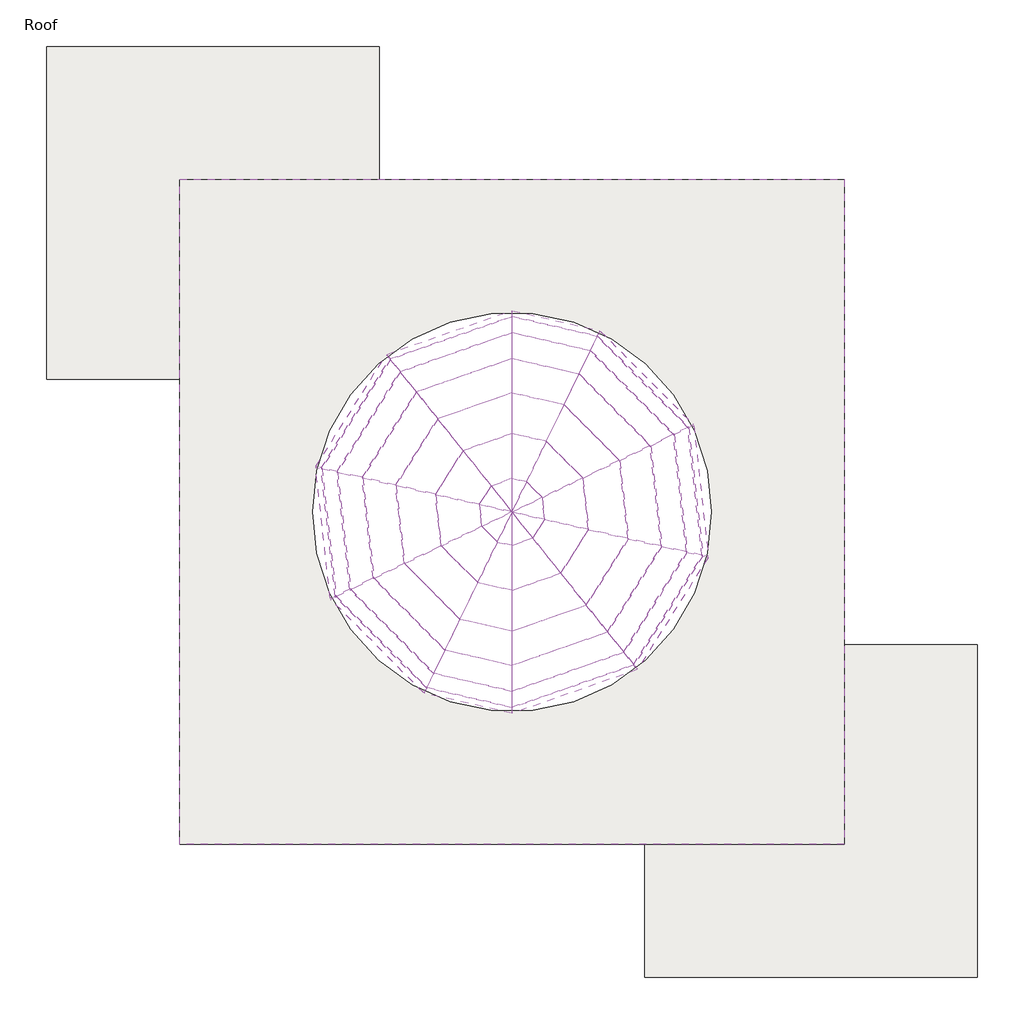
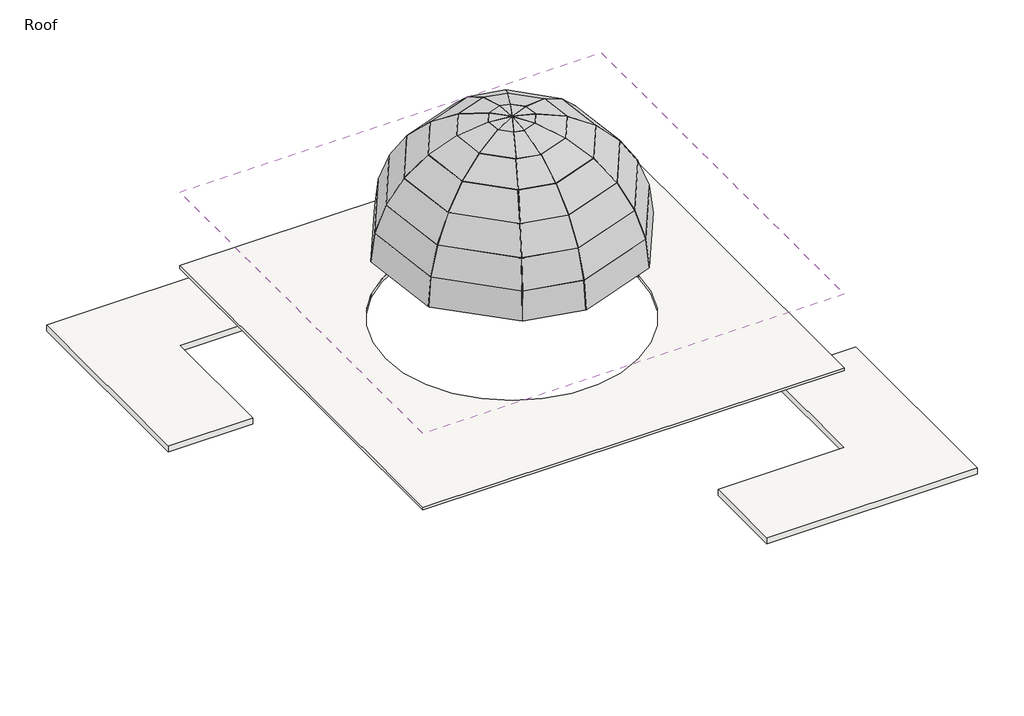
# One storey: 70 plates, 2 roofs, 1 slab.
"""IFC4 building model written with IfcOpenShell, lengths in millimetres."""

from ifc_helpers import new_model, si_unit, point, frame, frame_2d, origin, place, context, project, spatial, polyline, circle_curve, trimmed, segment, composite_curve, outline, extrude, transform, mapped, element, save
from components import system_panel_glazed_898c23d1, system_panel_glazed_25115a52, system_panel_glazed_62ab61e8, system_panel_glazed_7acfdb1a, system_panel_glazed_9f142460, system_panel_glazed_700fa891, system_panel_glazed_364f3b73, system_panel_glazed_2223643d, system_panel_glazed_0767997b, system_panel_glazed_000dc080, system_panel_glazed_7876e2aa, system_panel_glazed_8a0f5b20, system_panel_glazed_07cf543c, system_panel_glazed_3a158d1d, system_panel_glazed_cda2b1d7, system_panel_glazed_93534adc, system_panel_glazed_8185ee31, system_panel_glazed_1dea36c9, system_panel_glazed_61edb7d8, system_panel_glazed_57e85f98, system_panel_glazed_60b97da7, system_panel_glazed_c1cc0219

model = new_model("IFC4")

# Units and contexts
model_context = context("Model", 3, world=origin())
ifc_project = project(units=[si_unit("LENGTHUNIT", "METRE", prefix="MILLI")], contexts=[model_context])

# Site, building, storey
site = spatial("IfcSite", under=ifc_project)
building = spatial("IfcBuilding", under=site)
storey = spatial("IfcBuildingStorey", under=building, Name="Roof", Elevation=15240.0)

# Plates
placement = place(None, origin())
system_panel_glazed_shape = system_panel_glazed_898c23d1(model_context)
element("IfcPlate", 1, ObjectType="System Panel : Glazed", at=placement, inside=storey, context=model_context, shape_type="MappedRepresentation", body=[
    mapped(system_panel_glazed_shape, transform((-783.4578799, -1990.338386, 18288.0), x_axis=(0.9439868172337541, 0.3299831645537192, 0.0), y_axis=(-0.3279728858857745, 0.9382359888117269, -0.1102134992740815), z_axis=(-0.03636859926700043, 0.10404009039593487, 0.9939079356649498))),
])
element("IfcPlate", 2, ObjectType="System Panel : Glazed", at=placement, inside=storey, context=model_context, shape_type="MappedRepresentation", body=[
    mapped(system_panel_glazed_shape, transform((-3631.8116602, 6157.981614, 18288.0), x_axis=(-0.9439868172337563, -0.32998316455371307, 0.0), y_axis=(0.3279728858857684, -0.9382359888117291, -0.11021349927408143), z_axis=(0.03636859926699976, -0.10404009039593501, 0.9939079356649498))),
])
element("IfcPlate", 3, ObjectType="System Panel : Glazed", at=placement, inside=storey, context=model_context, shape_type="MappedRepresentation", body=[
    mapped(system_panel_glazed_shape, transform((1444.5877438, -215.8153638, 18288.0), x_axis=(0.5328281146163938, 0.8462234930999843, 0.0), y_axis=(-0.8410682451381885, 0.5295820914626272, -0.11021349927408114), z_axis=(-0.09326525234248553, 0.05872485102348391, 0.9939079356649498))),
])
element("IfcPlate", 4, ObjectType="System Panel : Glazed", at=placement, inside=storey, context=model_context, shape_type="MappedRepresentation", body=[
    mapped(system_panel_glazed_shape, transform((2081.8875615, 2560.3273199, 18288.0), x_axis=(-0.11040683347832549, 0.9938864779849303, 0.0), y_axis=(-0.9878316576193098, -0.10973422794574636, -0.11021349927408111), z_axis=(-0.10953970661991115, -0.012168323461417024, 0.99390793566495))),
])
element("IfcPlate", 5, ObjectType="System Panel : Glazed", at=placement, inside=storey, context=model_context, shape_type="MappedRepresentation", body=[
    mapped(system_panel_glazed_shape, transform((850.862097, 5128.9252961, 18288.0), x_axis=(-0.7055534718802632, 0.7086566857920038, 0.0), y_axis=(-0.7043395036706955, -0.7012551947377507, -0.11021349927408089), z_axis=(-0.07810353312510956, -0.07776151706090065, 0.9939079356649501))),
])
element("IfcPlate", 6, ObjectType="System Panel : Glazed", at=placement, inside=storey, context=model_context, shape_type="MappedRepresentation", body=[
    mapped(system_panel_glazed_shape, transform((-5859.8572838, 4383.4585918, 18288.0), x_axis=(-0.5328281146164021, -0.846223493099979, 0.0), y_axis=(0.8410682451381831, -0.5295820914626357, -0.11021349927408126), z_axis=(0.09326525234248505, -0.05872485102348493, 0.99390793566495))),
])
element("IfcPlate", 7, ObjectType="System Panel : Glazed", at=placement, inside=storey, context=model_context, shape_type="MappedRepresentation", body=[
    mapped(system_panel_glazed_shape, transform((-6497.1571015, 1607.3159081, 18288.0), x_axis=(0.11040683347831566, -0.9938864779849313, 0.0), y_axis=(0.9878316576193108, 0.1097342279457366, -0.11021349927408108), z_axis=(0.10953970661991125, 0.012168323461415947, 0.99390793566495))),
])
element("IfcPlate", 8, ObjectType="System Panel : Glazed", at=placement, inside=storey, context=model_context, shape_type="MappedRepresentation", body=[
    mapped(system_panel_glazed_shape, transform((-5266.131637, -961.2820681, 18288.0), x_axis=(0.7055534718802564, -0.7086566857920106, 0.0), y_axis=(0.7043395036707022, 0.7012551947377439, -0.11021349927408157), z_axis=(0.0781035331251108, 0.07776151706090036, 0.9939079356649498))),
])
system_panel_glazed_2_shape = system_panel_glazed_25115a52(model_context)
element("IfcPlate", 9, ObjectType="System Panel : Glazed", at=placement, inside=storey, context=model_context, shape_type="MappedRepresentation", body=[
    mapped(system_panel_glazed_2_shape, transform((-1210.6146108, 6426.9426125, 18288.0), x_axis=(-0.9746481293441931, 0.22374320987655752, 0.0), y_axis=(-0.22229104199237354, -0.9683223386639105, -0.11374770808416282), z_axis=(-0.025450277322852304, -0.11086399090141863, 0.9935096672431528))),
])
element("IfcPlate", 10, ObjectType="System Panel : Glazed", at=placement, inside=storey, context=model_context, shape_type="MappedRepresentation", body=[
    mapped(system_panel_glazed_2_shape, transform((-3204.6549292, -2259.2993844, 18288.0), x_axis=(0.974648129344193, -0.22374320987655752, 0.0), y_axis=(0.2222910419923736, 0.9683223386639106, -0.11374770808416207), z_axis=(0.025450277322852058, 0.1108639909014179, 0.9935096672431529))),
])
system_panel_glazed_3_shape = system_panel_glazed_62ab61e8(model_context)
element("IfcPlate", 11, ObjectType="System Panel : Glazed", at=placement, inside=storey, context=model_context, shape_type="MappedRepresentation", body=[
    mapped(system_panel_glazed_3_shape, transform((-822.2271397, -1879.4306971, 19347.514959), x_axis=(0.9439868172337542, 0.329983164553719, 0.0), y_axis=(-0.31189854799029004, 0.8922519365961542, -0.3265054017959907), z_axis=(-0.10774128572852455, 0.3082167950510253, 0.9451953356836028))),
])
element("IfcPlate", 12, ObjectType="System Panel : Glazed", at=placement, inside=storey, context=model_context, shape_type="MappedRepresentation", body=[
    mapped(system_panel_glazed_3_shape, transform((1345.1661309, -153.2141349, 19347.514959), x_axis=(0.5328281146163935, 0.8462234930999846, 0.0), y_axis=(-0.7998464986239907, 0.5036266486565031, -0.32650540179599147), z_axis=(-0.27629654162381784, 0.17397125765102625, 0.9451953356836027))),
])
element("IfcPlate", 13, ObjectType="System Panel : Glazed", at=placement, inside=storey, context=model_context, shape_type="MappedRepresentation", body=[
    mapped(system_panel_glazed_3_shape, transform((1965.1172313, 2547.3557757, 19347.514959), x_axis=(-0.11040683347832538, 0.9938864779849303, 0.0), y_axis=(-0.9394168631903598, -0.10435602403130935, -0.3265054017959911), z_axis=(-0.3245093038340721, -0.03604842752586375, 0.9451953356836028))),
])
element("IfcPlate", 14, ObjectType="System Panel : Glazed", at=placement, inside=storey, context=model_context, shape_type="MappedRepresentation", body=[
    mapped(system_panel_glazed_3_shape, transform((767.6030156, 5046.030807, 19347.514959), x_axis=(-0.7055534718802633, 0.7086566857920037, 0.0), y_axis=(-0.6698189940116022, -0.6668858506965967, -0.32650540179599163), z_axis=(-0.231380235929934, -0.2303670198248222, 0.9451953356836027))),
])
element("IfcPlate", 15, ObjectType="System Panel : Glazed", at=placement, inside=storey, context=model_context, shape_type="MappedRepresentation", body=[
    mapped(system_panel_glazed_3_shape, transform((-3593.0424004, 6047.0739251, 19347.514959), x_axis=(-0.9439868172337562, -0.3299831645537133, 0.0), y_axis=(0.31189854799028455, -0.8922519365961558, -0.3265054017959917), z_axis=(0.10774128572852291, -0.308216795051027, 0.9451953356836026))),
])
element("IfcPlate", 16, ObjectType="System Panel : Glazed", at=placement, inside=storey, context=model_context, shape_type="MappedRepresentation", body=[
    mapped(system_panel_glazed_3_shape, transform((-5760.435671, 4320.857363, 19347.514959), x_axis=(-0.5328281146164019, -0.8462234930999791, 0.0), y_axis=(0.7998464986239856, -0.5036266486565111, -0.3265054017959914), z_axis=(0.27629654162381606, -0.17397125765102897, 0.9451953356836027))),
])
element("IfcPlate", 17, ObjectType="System Panel : Glazed", at=placement, inside=storey, context=model_context, shape_type="MappedRepresentation", body=[
    mapped(system_panel_glazed_3_shape, transform((-6380.3867714, 1620.2874524, 19347.514959), x_axis=(0.11040683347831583, -0.9938864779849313, 0.0), y_axis=(0.9394168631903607, 0.10435602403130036, -0.3265054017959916), z_axis=(0.32450930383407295, 0.036048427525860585, 0.9451953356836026))),
])
element("IfcPlate", 18, ObjectType="System Panel : Glazed", at=placement, inside=storey, context=model_context, shape_type="MappedRepresentation", body=[
    mapped(system_panel_glazed_3_shape, transform((-5182.8725556, -878.3875789, 19347.514959), x_axis=(0.7055534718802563, -0.7086566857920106, 0.0), y_axis=(0.6698189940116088, 0.6668858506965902, -0.32650540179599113), z_axis=(0.2313802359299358, 0.23036701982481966, 0.9451953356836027))),
])
system_panel_glazed_4_shape = system_panel_glazed_7acfdb1a(model_context)
element("IfcPlate", 19, ObjectType="System Panel : Glazed", at=placement, inside=storey, context=model_context, shape_type="MappedRepresentation", body=[
    mapped(system_panel_glazed_4_shape, transform((-1237.7557152, 6308.7132075, 19347.514959), x_axis=(-0.9746481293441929, 0.2237432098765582, 0.0), y_axis=(-0.21074077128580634, -0.918008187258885, -0.33593049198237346), z_axis=(-0.07516216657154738, -0.3274140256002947, 0.9418867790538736))),
])
element("IfcPlate", 20, ObjectType="System Panel : Glazed", at=placement, inside=storey, context=model_context, shape_type="MappedRepresentation", body=[
    mapped(system_panel_glazed_4_shape, transform((-3177.5138249, -2141.0699794, 19347.514959), x_axis=(0.9746481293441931, -0.2237432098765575, 0.0), y_axis=(0.2107407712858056, 0.9180081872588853, -0.3359304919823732), z_axis=(0.07516216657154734, 0.3274140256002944, 0.9418867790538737))),
])
system_panel_glazed_5_shape = system_panel_glazed_9f142460(model_context)
element("IfcPlate", 21, ObjectType="System Panel : Glazed", at=placement, inside=storey, context=model_context, shape_type="MappedRepresentation", body=[
    mapped(system_panel_glazed_5_shape, transform((-936.4241482, -1552.7459379, 20349.3452147), x_axis=(0.9439868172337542, 0.32998316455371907, 0.0), y_axis=(-0.279852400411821, 0.800577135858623, -0.5298668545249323), z_axis=(-0.17484714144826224, 0.5001873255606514, 0.8480808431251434))),
])
element("IfcPlate", 22, ObjectType="System Panel : Glazed", at=placement, inside=storey, context=model_context, shape_type="MappedRepresentation", body=[
    mapped(system_panel_glazed_5_shape, transform((1052.3142468, 31.1812625, 20349.3452147), x_axis=(0.5328281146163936, 0.8462234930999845, 0.0), y_axis=(-0.717665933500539, 0.45188131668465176, -0.5298668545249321), z_axis=(-0.44838578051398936, 0.2823279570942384, 0.8480808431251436))),
])
element("IfcPlate", 23, ObjectType="System Panel : Glazed", at=placement, inside=storey, context=model_context, shape_type="MappedRepresentation", body=[
    mapped(system_panel_glazed_5_shape, transform((1621.1637367, 2509.1473716, 20349.3452147), x_axis=(-0.11040683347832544, 0.9938864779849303, 0.0), y_axis=(-0.8428960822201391, -0.0936339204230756, -0.5298668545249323), z_axis=(-0.5266275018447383, -0.05850092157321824, 0.8480808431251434))),
])
element("IfcPlate", 24, ObjectType="System Panel : Glazed", at=placement, inside=storey, context=model_context, shape_type="MappedRepresentation", body=[
    mapped(system_panel_glazed_5_shape, transform((522.3587659, 4801.860484, 20349.3452147), x_axis=(-0.7055534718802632, 0.7086566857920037, 0.0), y_axis=(-0.6009981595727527, -0.598366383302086, -0.5298668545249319), z_axis=(-0.3754936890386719, -0.3738493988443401, 0.8480808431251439))),
])
element("IfcPlate", 25, ObjectType="System Panel : Glazed", at=placement, inside=storey, context=model_context, shape_type="MappedRepresentation", body=[
    mapped(system_panel_glazed_5_shape, transform((-3478.8453918, 5720.389166, 20349.3452147), x_axis=(-0.9439868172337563, -0.329983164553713, 0.0), y_axis=(0.27985240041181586, -0.800577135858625, -0.5298668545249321), z_axis=(0.1748471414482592, -0.5001873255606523, 0.8480808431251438))),
])
element("IfcPlate", 26, ObjectType="System Panel : Glazed", at=placement, inside=storey, context=model_context, shape_type="MappedRepresentation", body=[
    mapped(system_panel_glazed_5_shape, transform((-5467.5837868, 4136.4619656, 20349.3452147), x_axis=(-0.532828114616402, -0.8462234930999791, 0.0), y_axis=(0.7176659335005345, -0.451881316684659, -0.5298668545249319), z_axis=(0.4483857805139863, -0.28232795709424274, 0.8480808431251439))),
])
element("IfcPlate", 27, ObjectType="System Panel : Glazed", at=placement, inside=storey, context=model_context, shape_type="MappedRepresentation", body=[
    mapped(system_panel_glazed_5_shape, transform((-6036.4332767, 1658.4958565, 20349.3452147), x_axis=(0.11040683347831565, -0.9938864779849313, 0.0), y_axis=(0.8428960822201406, 0.09363392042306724, -0.5298668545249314), z_axis=(0.526627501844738, 0.05850092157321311, 0.8480808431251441))),
])
element("IfcPlate", 28, ObjectType="System Panel : Glazed", at=placement, inside=storey, context=model_context, shape_type="MappedRepresentation", body=[
    mapped(system_panel_glazed_5_shape, transform((-4937.6283059, -634.217256, 20349.3452147), x_axis=(0.7055534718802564, -0.7086566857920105, 0.0), y_axis=(0.6009981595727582, 0.5983663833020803, -0.5298668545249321), z_axis=(0.3754936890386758, 0.37384939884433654, 0.8480808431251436))),
])
system_panel_glazed_6_shape = system_panel_glazed_700fa891(model_context)
element("IfcPlate", 29, ObjectType="System Panel : Glazed", at=placement, inside=storey, context=model_context, shape_type="MappedRepresentation", body=[
    mapped(system_panel_glazed_6_shape, transform((-1317.7013458, 5960.4619269, 20349.3452147), x_axis=(-0.974648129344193, 0.2237432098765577, 0.0), y_axis=(-0.1880179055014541, -0.819025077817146, -0.5420767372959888), z_axis=(-0.12128598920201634, -0.528334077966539, 0.8403289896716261))),
])
element("IfcPlate", 30, ObjectType="System Panel : Glazed", at=placement, inside=storey, context=model_context, shape_type="MappedRepresentation", body=[
    mapped(system_panel_glazed_6_shape, transform((-3097.5681942, -1792.8186988, 20349.3452147), x_axis=(0.9746481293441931, -0.2237432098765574, 0.0), y_axis=(0.1880179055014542, 0.8190250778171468, -0.5420767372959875), z_axis=(0.12128598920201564, 0.5283340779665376, 0.8403289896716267))),
])
system_panel_glazed_7_shape = system_panel_glazed_364f3b73(model_context)
element("IfcPlate", 31, ObjectType="System Panel : Glazed", at=placement, inside=storey, context=model_context, shape_type="MappedRepresentation", body=[
    mapped(system_panel_glazed_7_shape, transform((-1119.8315129, -1028.0702787, 21238.9466754), x_axis=(0.9439868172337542, 0.32998316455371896, 0.0), y_axis=(-0.23231958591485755, 0.6645994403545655, -0.7101656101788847), z_axis=(-0.23434269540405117, 0.6703869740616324, 0.7040346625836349))),
])
element("IfcPlate", 32, ObjectType="System Panel : Glazed", at=placement, inside=storey, context=model_context, shape_type="MappedRepresentation", body=[
    mapped(system_panel_glazed_7_shape, transform((581.9762495, 327.3315235, 21238.9466754), x_axis=(0.5328281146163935, 0.8462234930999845, 0.0), y_axis=(-0.5957706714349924, 0.37512946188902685, -0.7101656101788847), z_axis=(-0.6009588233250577, 0.3783962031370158, 0.7040346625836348))),
])
element("IfcPlate", 33, ObjectType="System Panel : Glazed", at=placement, inside=storey, context=model_context, shape_type="MappedRepresentation", body=[
    mapped(system_panel_glazed_7_shape, transform((1068.7534344, 2447.7823429, 21238.9466754), x_axis=(-0.11040683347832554, 0.9938864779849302, 0.0), y_axis=(-0.6997305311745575, -0.07773023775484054, -0.7101656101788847), z_axis=(-0.7058239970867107, -0.07840713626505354, 0.7040346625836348))),
])
element("IfcPlate", 34, ObjectType="System Panel : Glazed", at=placement, inside=storey, context=model_context, shape_type="MappedRepresentation", body=[
    mapped(system_panel_glazed_7_shape, transform((128.4815348, 4409.7080448, 21238.9466754), x_axis=(-0.7055534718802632, 0.7086566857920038, 0.0), y_axis=(-0.49891887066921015, -0.4967341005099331, -0.7101656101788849), z_axis=(-0.5032636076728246, -0.5010598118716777, 0.7040346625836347))),
])
element("IfcPlate", 35, ObjectType="System Panel : Glazed", at=placement, inside=storey, context=model_context, shape_type="MappedRepresentation", body=[
    mapped(system_panel_glazed_7_shape, transform((-3295.4380272, 5195.7135068, 21238.9466754), x_axis=(-0.9439868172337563, -0.32998316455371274, 0.0), y_axis=(0.23231958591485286, -0.6645994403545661, -0.7101656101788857), z_axis=(0.23434269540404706, -0.6703869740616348, 0.7040346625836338))),
])
element("IfcPlate", 36, ObjectType="System Panel : Glazed", at=placement, inside=storey, context=model_context, shape_type="MappedRepresentation", body=[
    mapped(system_panel_glazed_7_shape, transform((-4997.2457895, 3840.3117046, 21238.9466754), x_axis=(-0.5328281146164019, -0.8462234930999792, 0.0), y_axis=(0.595770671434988, -0.37512946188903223, -0.7101656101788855), z_axis=(0.6009588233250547, -0.3783962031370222, 0.704034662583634))),
])
element("IfcPlate", 37, ObjectType="System Panel : Glazed", at=placement, inside=storey, context=model_context, shape_type="MappedRepresentation", body=[
    mapped(system_panel_glazed_7_shape, transform((-5484.0229745, 1719.8608852, 21238.9466754), x_axis=(0.1104068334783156, -0.9938864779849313, 0.0), y_axis=(0.6997305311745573, 0.07773023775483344, -0.7101656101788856), z_axis=(0.7058239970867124, 0.07840713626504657, 0.7040346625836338))),
])
element("IfcPlate", 38, ObjectType="System Panel : Glazed", at=placement, inside=storey, context=model_context, shape_type="MappedRepresentation", body=[
    mapped(system_panel_glazed_7_shape, transform((-4543.7510748, -242.0648168, 21238.9466754), x_axis=(0.7055534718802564, -0.7086566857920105, 0.0), y_axis=(0.4989188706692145, 0.4967341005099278, -0.7101656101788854), z_axis=(0.5032636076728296, 0.5010598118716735, 0.704034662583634))),
])
system_panel_glazed_8_shape = system_panel_glazed_2223643d(model_context)
element("IfcPlate", 39, ObjectType="System Panel : Glazed", at=placement, inside=storey, context=model_context, shape_type="MappedRepresentation", body=[
    mapped(system_panel_glazed_8_shape, transform((-1446.0989074, 5401.1491181, 21238.9466754), x_axis=(-0.9746481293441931, 0.22374320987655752, 0.0), y_axis=(-0.15496437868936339, -0.6750405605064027, -0.7213225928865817), z_axis=(-0.16139103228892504, -0.7030357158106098, 0.6925992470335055))),
])
element("IfcPlate", 40, ObjectType="System Panel : Glazed", at=placement, inside=storey, context=model_context, shape_type="MappedRepresentation", body=[
    mapped(system_panel_glazed_8_shape, transform((-2969.1706327, -1233.5058901, 21238.9466754), x_axis=(0.9746481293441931, -0.22374320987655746, 0.0), y_axis=(0.15496437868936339, 0.6750405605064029, -0.7213225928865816), z_axis=(0.16139103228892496, 0.7030357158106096, 0.6925992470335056))),
])
system_panel_glazed_9_shape = system_panel_glazed_0767997b(model_context)
element("IfcPlate", 41, ObjectType="System Panel : Glazed", at=placement, inside=storey, context=model_context, shape_type="MappedRepresentation", body=[
    mapped(system_panel_glazed_9_shape, transform((-1362.4637215, -333.9693942, 21967.8854838), x_axis=(0.9439868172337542, 0.32998316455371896, 0.0), y_axis=(-0.17066431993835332, 0.4882214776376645, -0.8558700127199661), z_axis=(-0.2824226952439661, 0.8079300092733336, 0.5171909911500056))),
])
element("IfcPlate", 42, ObjectType="System Panel : Glazed", at=placement, inside=storey, context=model_context, shape_type="MappedRepresentation", body=[
    mapped(system_panel_glazed_9_shape, transform((-40.24057, 719.1129116, 21967.8854838), x_axis=(0.5328281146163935, 0.8462234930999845, 0.0), y_axis=(-0.43765916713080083, 0.2755739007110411, -0.8558700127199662), z_axis=(-0.7242573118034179, 0.4560316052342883, 0.5171909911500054))),
])
element("IfcPlate", 43, ObjectType="System Panel : Glazed", at=placement, inside=storey, context=model_context, shape_type="MappedRepresentation", body=[
    mapped(system_panel_glazed_9_shape, transform((337.9619966, 2366.6016745, 21967.8854838), x_axis=(-0.11040683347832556, 0.9938864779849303, 0.0), y_axis=(-0.5140291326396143, -0.057101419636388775, -0.8558700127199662), z_axis=(-0.8506376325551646, -0.09449389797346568, 0.5171909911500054))),
])
element("IfcPlate", 44, ObjectType="System Panel : Glazed", at=placement, inside=storey, context=model_context, shape_type="MappedRepresentation", body=[
    mapped(system_panel_glazed_9_shape, transform((-392.5842507, 3890.924011, 21967.8854838), x_axis=(-0.7055534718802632, 0.7086566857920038, 0.0), y_axis=(-0.3665108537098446, -0.364905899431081, -0.8558700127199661), z_axis=(-0.6065180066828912, -0.603862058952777, 0.5171909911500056))),
])
element("IfcPlate", 45, ObjectType="System Panel : Glazed", at=placement, inside=storey, context=model_context, shape_type="MappedRepresentation", body=[
    mapped(system_panel_glazed_9_shape, transform((-3052.8058186, 4501.6126223, 21967.8854838), x_axis=(-0.9439868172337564, -0.32998316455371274, 0.0), y_axis=(0.17066431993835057, -0.48822147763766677, -0.8558700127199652), z_axis=(0.28242269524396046, -0.8079300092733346, 0.5171909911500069))),
])
element("IfcPlate", 46, ObjectType="System Panel : Glazed", at=placement, inside=storey, context=model_context, shape_type="MappedRepresentation", body=[
    mapped(system_panel_glazed_9_shape, transform((-4375.0289701, 3448.5303165, 21967.8854838), x_axis=(-0.5328281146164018, -0.8462234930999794, 0.0), y_axis=(0.4376591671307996, -0.2755739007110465, -0.855870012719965), z_axis=(0.7242573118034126, -0.45603160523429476, 0.5171909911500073))),
])
element("IfcPlate", 47, ObjectType="System Panel : Glazed", at=placement, inside=storey, context=model_context, shape_type="MappedRepresentation", body=[
    mapped(system_panel_glazed_9_shape, transform((-4753.2315367, 1801.0415536, 21967.8854838), x_axis=(0.11040683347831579, -0.9938864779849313, 0.0), y_axis=(0.5140291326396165, 0.05710141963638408, -0.8558700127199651), z_axis=(0.8506376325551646, 0.09449389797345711, 0.5171909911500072))),
])
element("IfcPlate", 48, ObjectType="System Panel : Glazed", at=placement, inside=storey, context=model_context, shape_type="MappedRepresentation", body=[
    mapped(system_panel_glazed_9_shape, transform((-4022.6852893, 276.719217, 21967.8854838), x_axis=(0.7055534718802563, -0.7086566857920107, 0.0), y_axis=(0.36651085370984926, 0.3649058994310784, -0.855870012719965), z_axis=(0.6065180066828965, 0.6038620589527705, 0.5171909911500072))),
])
system_panel_glazed_10_shape = system_panel_glazed_000dc080(model_context)
element("IfcPlate", 49, ObjectType="System Panel : Glazed", at=placement, inside=storey, context=model_context, shape_type="MappedRepresentation", body=[
    mapped(system_panel_glazed_10_shape, transform((-1615.9578658, 4661.2262564, 21967.8854838), x_axis=(-0.974648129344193, 0.22374320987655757, 0.0), y_axis=(-0.11301759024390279, -0.49231609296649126, -0.8630480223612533), z_axis=(-0.1931011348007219, -0.8411681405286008, 0.5051218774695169))),
])
element("IfcPlate", 50, ObjectType="System Panel : Glazed", at=placement, inside=storey, context=model_context, shape_type="MappedRepresentation", body=[
    mapped(system_panel_glazed_10_shape, transform((-2799.3116742, -493.5830283, 21967.8854838), x_axis=(0.9746481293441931, -0.22374320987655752, 0.0), y_axis=(0.11301759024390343, 0.4923160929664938, -0.8630480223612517), z_axis=(0.19310113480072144, 0.8411681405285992, 0.5051218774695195))),
])
system_panel_glazed_11_shape = system_panel_glazed_7876e2aa(model_context)
element("IfcPlate", 51, ObjectType="System Panel : Glazed", at=placement, inside=storey, context=model_context, shape_type="MappedRepresentation", body=[
    mapped(system_panel_glazed_11_shape, transform((-1651.1107983, 491.7667785, 22496.4749713), x_axis=(0.9439868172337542, 0.3299831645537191, 0.0), y_axis=(-0.09765688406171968, 0.2793682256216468, -0.9552049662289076), z_axis=(-0.31520155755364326, 0.9017008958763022, 0.29594504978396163))),
])
element("IfcPlate", 52, ObjectType="System Panel : Glazed", at=placement, inside=storey, context=model_context, shape_type="MappedRepresentation", body=[
    mapped(system_panel_glazed_11_shape, transform((-780.4599626, 1185.1951069, 22496.4749713), x_axis=(0.5328281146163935, 0.8462234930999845, 0.0), y_axis=(-0.25043565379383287, 0.15768784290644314, -0.9552049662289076), z_axis=(-0.8083168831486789, 0.5089600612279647, 0.29594504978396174))),
])
element("IfcPlate", 53, ObjectType="System Panel : Glazed", at=placement, inside=storey, context=model_context, shape_type="MappedRepresentation", body=[
    mapped(system_panel_glazed_11_shape, transform((-531.4230429, 2270.0252028, 22496.4749713), x_axis=(-0.11040683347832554, 0.9938864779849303, 0.0), y_axis=(-0.2941357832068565, -0.03267435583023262, -0.9552049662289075), z_axis=(-0.9493652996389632, -0.10546115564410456, 0.2959450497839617))),
])
element("IfcPlate", 54, ObjectType="System Panel : Glazed", at=placement, inside=storey, context=model_context, shape_type="MappedRepresentation", body=[
    mapped(system_panel_glazed_11_shape, transform((-1012.4694533, 3273.7532912, 22496.4749713), x_axis=(-0.7055534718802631, 0.7086566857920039, 0.0), y_axis=(-0.20972343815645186, -0.20880505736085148, -0.9552049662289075), z_axis=(-0.6769123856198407, -0.6739481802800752, 0.2959450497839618))),
])
element("IfcPlate", 55, ObjectType="System Panel : Glazed", at=placement, inside=storey, context=model_context, shape_type="MappedRepresentation", body=[
    mapped(system_panel_glazed_11_shape, transform((-2764.1587417, 3675.8764496, 22496.4749713), x_axis=(-0.9439868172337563, -0.3299831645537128, 0.0), y_axis=(0.09765688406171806, -0.2793682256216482, -0.9552049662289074), z_axis=(0.3152015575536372, -0.901700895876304, 0.2959450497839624))),
])
element("IfcPlate", 56, ObjectType="System Panel : Glazed", at=placement, inside=storey, context=model_context, shape_type="MappedRepresentation", body=[
    mapped(system_panel_glazed_11_shape, transform((-3634.8095775, 2982.4481212, 22496.4749713), x_axis=(-0.5328281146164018, -0.8462234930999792, 0.0), y_axis=(0.25043565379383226, -0.15768784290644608, -0.9552049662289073), z_axis=(0.8083168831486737, -0.5089600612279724, 0.2959450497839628))),
])
element("IfcPlate", 57, ObjectType="System Panel : Glazed", at=placement, inside=storey, context=model_context, shape_type="MappedRepresentation", body=[
    mapped(system_panel_glazed_11_shape, transform((-3883.8464971, 1897.6180253, 22496.4749713), x_axis=(0.11040683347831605, -0.9938864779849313, 0.0), y_axis=(0.29413578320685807, 0.032674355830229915, -0.9552049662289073), z_axis=(0.949365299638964, 0.10546115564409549, 0.2959450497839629))),
])
element("IfcPlate", 58, ObjectType="System Panel : Glazed", at=placement, inside=storey, context=model_context, shape_type="MappedRepresentation", body=[
    mapped(system_panel_glazed_11_shape, transform((-3402.8000867, 893.8899369, 22496.4749713), x_axis=(0.7055534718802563, -0.7086566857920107, 0.0), y_axis=(0.20972343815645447, 0.2088050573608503, -0.9552049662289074), z_axis=(0.6769123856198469, 0.6739481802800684, 0.2959450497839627))),
])
system_panel_glazed_12_shape = system_panel_glazed_8a0f5b20(model_context)
element("IfcPlate", 59, ObjectType="System Panel : Glazed", at=placement, inside=storey, context=model_context, shape_type="MappedRepresentation", body=[
    mapped(system_panel_glazed_12_shape, transform((-1818.0303447, 3780.9780308, 22496.4749713), x_axis=(-0.9746481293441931, 0.22374320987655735, 0.0), y_axis=(-0.0643072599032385, -0.28012895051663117, -0.9578060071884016), z_axis=(-0.2143025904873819, -0.9335238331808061, 0.2874154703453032))),
])
element("IfcPlate", 60, ObjectType="System Panel : Glazed", at=placement, inside=storey, context=model_context, shape_type="MappedRepresentation", body=[
    mapped(system_panel_glazed_12_shape, transform((-2597.2391954, 386.6651973, 22496.4749713), x_axis=(0.9746481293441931, -0.22374320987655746, 0.0), y_axis=(0.06430725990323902, 0.2801289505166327, -0.9578060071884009), z_axis=(0.2143025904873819, 0.9335238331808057, 0.28741547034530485))),
])
system_panel_glazed_13_shape = system_panel_glazed_07cf543c(model_context)
element("IfcPlate", 61, ObjectType="System Panel : Glazed", at=placement, inside=storey, context=model_context, shape_type="MappedRepresentation", body=[
    mapped(system_panel_glazed_13_shape, transform((-1970.060611, 1321.7150337, 22789.0095239), x_axis=(0.9995722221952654, 0.0024480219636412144, -0.02914412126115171), y_axis=(-0.029246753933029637, 0.08366654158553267, -0.9960645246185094), z_axis=(0.0, 0.9964908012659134, 0.08370234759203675))),
])
system_panel_glazed_14_shape = system_panel_glazed_3a158d1d(model_context)
element("IfcPlate", 62, ObjectType="System Panel : Glazed", at=placement, inside=storey, context=model_context, shape_type="MappedRepresentation", body=[
    mapped(system_panel_glazed_14_shape, transform((-1835.1750848, 1486.8639875, 22803.65175), x_axis=(0.9971834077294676, 0.00355196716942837, -0.07491752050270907), y_axis=(-0.0750016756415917, 0.0472251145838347, -0.9960645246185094), z_axis=(0.0, 0.9988779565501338, 0.04735850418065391))),
])
system_panel_glazed_15_shape = system_panel_glazed_cda2b1d7(model_context)
element("IfcPlate", 63, ObjectType="System Panel : Glazed", at=placement, inside=storey, context=model_context, shape_type="MappedRepresentation", body=[
    mapped(system_panel_glazed_15_shape, transform((-1834.8224153, 1913.4971614, 22828.7027936), x_axis=(0.9961125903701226, -0.0008653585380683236, -0.08808495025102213), y_axis=(-0.08808920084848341, -0.009785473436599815, -0.9960645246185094), z_axis=(0.0, 0.9999517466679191, -0.009823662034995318))),
])
system_panel_glazed_16_shape = system_panel_glazed_93534adc(model_context)
element("IfcPlate", 64, ObjectType="System Panel : Glazed", at=placement, inside=storey, context=model_context, shape_type="MappedRepresentation", body=[
    mapped(system_panel_glazed_16_shape, transform((-1863.1976694, 2083.5569055, 22838.2973984), x_axis=(0.9980255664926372, -0.0039354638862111, -0.06268557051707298), y_axis=(-0.06280898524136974, -0.062533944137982, -0.9960645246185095), z_axis=(0.0, 0.9980350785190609, -0.06265765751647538))),
])
system_panel_glazed_17_shape = system_panel_glazed_8185ee31(model_context)
element("IfcPlate", 65, ObjectType="System Panel : Glazed", at=placement, inside=storey, context=model_context, shape_type="MappedRepresentation", body=[
    mapped(system_panel_glazed_17_shape, transform((-2041.3166551, 2085.8238534, 22856.6247664), x_axis=(0.9998154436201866, -0.0016080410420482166, -0.019144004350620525), y_axis=(-0.019211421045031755, -0.08368689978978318, -0.9963068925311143), z_axis=(0.0, 0.9964908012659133, -0.08370234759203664))),
])
system_panel_glazed_18_shape = system_panel_glazed_1dea36c9(model_context)
element("IfcPlate", 66, ObjectType="System Panel : Glazed", at=placement, inside=storey, context=model_context, shape_type="MappedRepresentation", body=[
    mapped(system_panel_glazed_18_shape, transform((-2445.2089291, 2085.2127617, 22852.9074219), x_axis=(0.9995722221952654, 0.002448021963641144, 0.029144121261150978), y_axis=(0.029246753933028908, -0.08366654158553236, -0.9960645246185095), z_axis=(0.0, 0.9964908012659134, -0.08370234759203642))),
])
system_panel_glazed_19_shape = system_panel_glazed_61edb7d8(model_context)
element("IfcPlate", 67, ObjectType="System Panel : Glazed", at=placement, inside=storey, context=model_context, shape_type="MappedRepresentation", body=[
    mapped(system_panel_glazed_19_shape, transform((-2580.0944553, 2083.0619792, 22831.9905428), x_axis=(0.9971834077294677, 0.0035519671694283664, 0.07491752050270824), y_axis=(0.07500167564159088, -0.04722511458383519, -0.9960645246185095), z_axis=(0.0, 0.9988779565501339, -0.0473585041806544))),
])
system_panel_glazed_20_shape = system_panel_glazed_57e85f98(model_context)
element("IfcPlate", 68, ObjectType="System Panel : Glazed", at=placement, inside=storey, context=model_context, shape_type="MappedRepresentation", body=[
    mapped(system_panel_glazed_20_shape, transform((-2580.4471247, 1753.922904, 22823.7885332), x_axis=(0.9961125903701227, -0.0008653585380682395, 0.0880849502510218), y_axis=(0.08808920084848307, 0.0097854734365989, -0.9960645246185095), z_axis=(0.0, 0.9999517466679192, 0.0098236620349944))),
])
system_panel_glazed_21_shape = system_panel_glazed_60b97da7(model_context)
element("IfcPlate", 69, ObjectType="System Panel : Glazed", at=placement, inside=storey, context=model_context, shape_type="MappedRepresentation", body=[
    mapped(system_panel_glazed_21_shape, transform((-2552.0718706, 1397.5416419, 22795.195425), x_axis=(0.9980255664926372, -0.0039354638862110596, 0.06268557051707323), y_axis=(0.06280898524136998, 0.06253394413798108, -0.9960645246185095), z_axis=(0.0, 0.998035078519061, 0.06265765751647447))),
])
system_panel_glazed_22_shape = system_panel_glazed_c1cc0219(model_context)
element("IfcPlate", 70, ObjectType="System Panel : Glazed", at=placement, inside=storey, context=model_context, shape_type="MappedRepresentation", body=[
    mapped(system_panel_glazed_22_shape, transform((-2373.952885, 1321.4006938, 22792.7517947), x_axis=(0.9998154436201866, -0.0016080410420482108, 0.019144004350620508), y_axis=(0.01921142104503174, 0.08368689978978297, -0.9963068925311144), z_axis=(0.0, 0.9964908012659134, 0.08370234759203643))),
])

# Roofs
element("IfcRoof", 71, ObjectType="Generic - 9\"", at=placement, inside=storey, context=model_context, shape_type="SweptSolid", body=[
    extrude(outline(polyline([(5412.36523, 9703.821614), (5412.36523, -5536.178386), (-9827.63477, -5536.178386), (-9827.63477, 9703.821614), (5412.36523, 9703.821614)]), holes=[composite_curve([segment(trimmed(circle_curve(frame_2d((-2207.63477, 2083.821614)), 4572.0), [point((2364.36523, 2083.821614))], [point((-6779.63477, 2083.821614))], True, "CARTESIAN"), True, "CONTINUOUS"), segment(trimmed(circle_curve(frame_2d((-2207.63477, 2083.821614)), 4572.0), [point((-6779.63477, 2083.821614))], [point((2364.36523, 2083.821614))], True, "CARTESIAN"), True, "CONTINUOUS")], self_intersect=False)]), frame((0.0, 0.0, 18059.4), z_axis=(0.0, 0.0, 1.0), x_axis=(1.0, 0.0, 0.0)), (0.0, 0.0, 1.0), 228.6),
])
element("IfcRoof", 72, ObjectType="Generic - 9\"", at=placement, inside=storey, context=model_context, shape_type="SweptSolid", body=[
    extrude(outline(polyline([(-5255.63477, 9703.821614), (-9827.63477, 9703.821614), (-9827.63477, 5131.821614), (-12875.63477, 5131.821614), (-12875.63477, 12751.821614), (-5255.63477, 12751.821614), (-5255.63477, 9703.821614)])), frame((0.0, 0.0, 11963.4), z_axis=(0.0, 0.0, 1.0), x_axis=(1.0, 0.0, 0.0)), (0.0, 0.0, 1.0), 228.6),
    extrude(outline(polyline([(5412.36523, -964.178386), (8460.36523, -964.178386), (8460.36523, -8584.178386), (840.36523, -8584.178386), (840.36523, -5536.178386), (5412.36523, -5536.178386), (5412.36523, -964.178386)])), frame((0.0, 0.0, 11963.4), z_axis=(0.0, 0.0, 1.0), x_axis=(1.0, 0.0, 0.0)), (0.0, 0.0, 1.0), 228.6),
])

# Slab
element("IfcSlab", 73, ObjectType="LW Concrete on Metal Deck", at=placement, inside=storey, context=model_context, shape_type="SweptSolid", body=[
    extrude(outline(polyline([(5412.36523, 9703.821614), (5412.36523, -5536.178386), (-9827.63477, -5536.178386), (-9827.63477, 9703.821614), (5412.36523, 9703.821614)]), holes=[composite_curve([segment(trimmed(circle_curve(frame_2d((-2207.63477, 2083.821614)), 4572.0), [point((2364.36523, 2083.821614))], [point((-6779.63477, 2083.821614))], True, "CARTESIAN"), True, "CONTINUOUS"), segment(trimmed(circle_curve(frame_2d((-2207.63477, 2083.821614)), 4572.0), [point((-6779.63477, 2083.821614))], [point((2364.36523, 2083.821614))], True, "CARTESIAN"), True, "CONTINUOUS")], self_intersect=False)]), frame((0.0, 0.0, 15135.225), z_axis=(0.0, 0.0, 1.0), x_axis=(1.0, 0.0, 0.0)), (0.0, 0.0, 1.0), 104.775),
])

save(model, "model.ifc")
